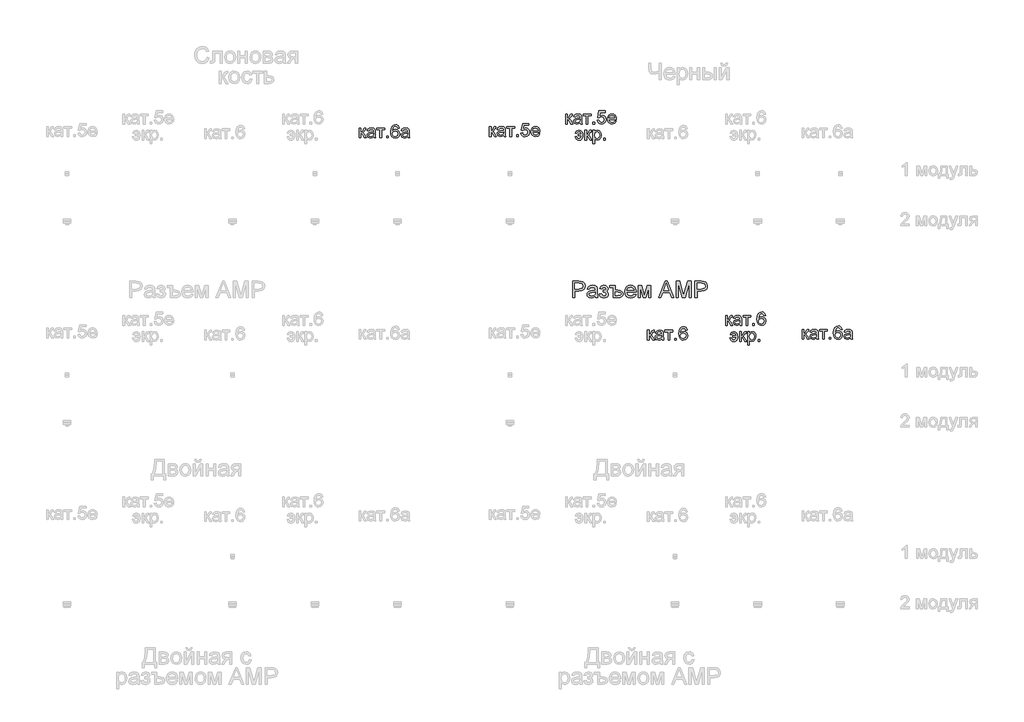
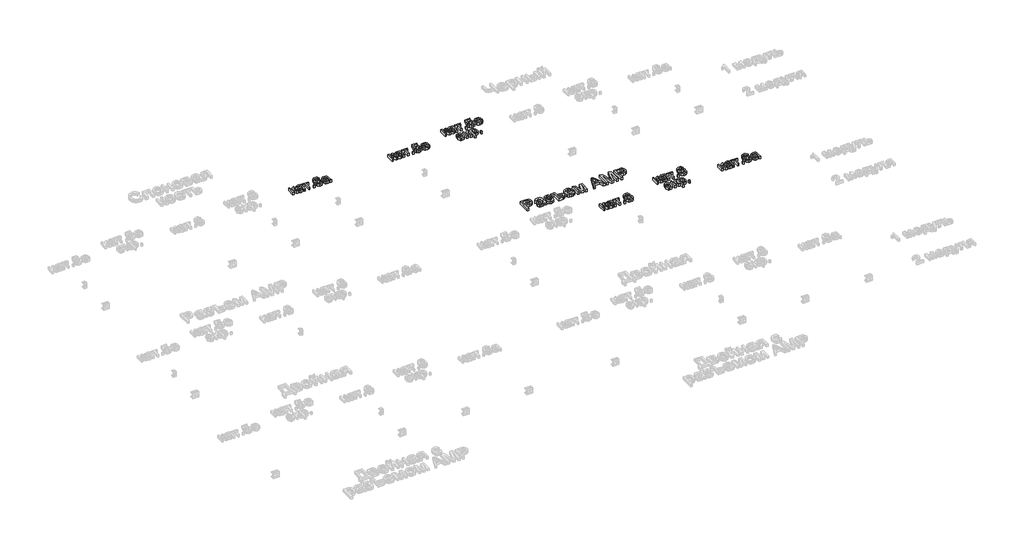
# One storey, part 32 of 47: 7 proxies.
"""IFC4 building model written with IfcOpenShell, lengths in millimetres."""

from ifc_helpers import new_model, si_unit, origin, origin_with_axes, place, context, project, spatial, polyline, outline, extrude, element, save

model = new_model("IFC4")

# Units and contexts
model_context = context("Model", 3, world=origin())
ifc_project = project(units=[si_unit("LENGTHUNIT", "METRE", prefix="MILLI")], contexts=[model_context])

# Site, building, storey
site = spatial("IfcSite", under=ifc_project)
building = spatial("IfcBuilding", under=site)
storey = spatial("IfcBuildingStorey", under=building, Name="Этаж 01", Elevation=0.0)

# Proxies
placement = place(None, origin())
element("IfcBuildingElementProxy", 1, Name="80 мм Arial", ObjectType="80 мм Arial", at=placement, inside=storey, context=model_context, shape_type="SweptSolid", body=[
    extrude(outline(polyline([(4554.3437127, -20043.42412), (4564.3893437, -20043.42412), (4564.3893437, -20068.5381975), (4571.1191317, -20066.7331232), (4576.6324565, -20056.2166032), (4581.2138137, -20047.1421807), (4585.2556105, -20044.1893145), (4592.6034402, -20043.42412), (4594.5262368, -20043.42412), (4594.5262368, -20053.5286121), (4591.8186253, -20053.469751), (4586.913532, -20054.5292512), (4583.4603464, -20061.1413169), (4579.4087393, -20068.2929429), (4573.7286413, -20071.7951795), (4580.0660218, -20075.7045388), (4586.2856801, -20083.9401904), (4597.0376445, -20102.4422022), (4585.6185874, -20102.4422022), (4575.0824471, -20084.3325979), (4569.7849463, -20076.6708422), (4564.3893437, -20074.8167169), (4564.3893437, -20102.4422022), (4554.3437127, -20102.4422022), (4554.3437127, -20043.42412)])), origin_with_axes(), (0.0, 0.0, 1.0), 20.0),
    extrude(outline(polyline([(4640.9872802, -20094.9079789), (4631.245765, -20101.7162484), (4620.4839904, -20103.6979061), (4605.896243, -20098.9301554), (4600.8047562, -20086.7459037), (4602.7275527, -20078.7996526), (4607.7797988, -20073.031263), (4614.8137026, -20069.7350403), (4623.5055278, -20068.2242716), (4640.9284191, -20064.7710859), (4640.9872802, -20062.5343634), (4638.2208076, -20055.1178623), (4627.1156765, -20052.2140471), (4616.9523232, -20054.1466539), (4612.1060911, -20061.0039743), (4602.0604601, -20059.7482704), (4606.4063727, -20049.9380839), (4615.1570591, -20044.1893145), (4628.4106211, -20042.1684161), (4640.5850626, -20043.9538701), (4647.4620034, -20048.4371253), (4650.5424019, -20055.255205), (4651.0329113, -20064.0451321), (4651.0329113, -20076.5433097), (4651.543041, -20093.9956316), (4653.544319, -20102.4422022), (4643.498688, -20102.4422022), (4640.9872802, -20094.9079789)]), holes=[polyline([(4640.9872802, -20074.8167169), (4624.7808521, -20077.8971155), (4616.1380777, -20079.5256065), (4612.2238133, -20082.1743568), (4610.8503872, -20086.0395703), (4613.8424941, -20091.4744137), (4622.622611, -20093.6522751), (4632.7859643, -20091.2487794), (4639.3391689, -20085.4313387), (4640.9284191, -20077.661671), (4640.9872802, -20074.8167169)])]), origin_with_axes(), (0.0, 0.0, 1.0), 20.0),
    extrude(outline(polyline([(4659.8228384, -20043.42412), (4707.5395857, -20043.42412), (4707.5395857, -20053.469751), (4688.7040276, -20053.469751), (4688.7040276, -20102.4422022), (4678.6583965, -20102.4422022), (4678.6583965, -20053.469751), (4659.8228384, -20053.469751), (4659.8228384, -20043.42412)])), origin_with_axes(), (0.0, 0.0, 1.0), 20.0),
    extrude(outline(polyline([(4718.8409206, -20102.4422022), (4718.8409206, -20092.3965712), (4728.8865516, -20092.3965712), (4728.8865516, -20102.4422022), (4718.8409206, -20102.4422022)])), origin_with_axes(), (0.0, 0.0, 1.0), 20.0),
    extrude(outline(polyline([(4796.694561, -20043.42412), (4786.64893, -20044.6798239), (4782.8425776, -20036.3019246), (4772.7773262, -20032.1227851), (4763.7127138, -20034.5557114), (4756.8553934, -20043.688995), (4754.0006292, -20061.5925855), (4762.8592276, -20053.5776631), (4773.8368263, -20050.9583433), (4783.1172628, -20052.7487023), (4790.9065509, -20058.1197794), (4796.1893364, -20066.3260005), (4797.9502648, -20076.6217912), (4794.6344218, -20090.4835848), (4785.5109483, -20100.2937714), (4772.345678, -20103.6979061), (4760.9486938, -20101.4415632), (4751.8718187, -20094.6725345), (4745.9342033, -20082.7237273), (4743.9549981, -20064.9280489), (4746.1524799, -20044.9201734), (4752.7449253, -20031.2398683), (4761.7457714, -20024.3678326), (4773.4051781, -20022.0771541), (4782.2196307, -20023.494726), (4789.2780599, -20027.7474419), (4796.694561, -20043.42412)]), holes=[polyline([(4754.0006292, -20076.4648283), (4756.3256434, -20085.1664637), (4762.5060609, -20091.4842238), (4771.5608631, -20093.6522751), (4783.4017582, -20089.1592096), (4787.9046338, -20076.9553376), (4783.4606193, -20065.2714054), (4771.1488352, -20061.0039743), (4758.9940141, -20065.2714054), (4754.0006292, -20076.4648283)])]), origin_with_axes(), (0.0, 0.0, 1.0), 20.0),
    extrude(outline(polyline([(4846.922716, -20094.9079789), (4837.1812008, -20101.7162484), (4826.4194262, -20103.6979061), (4811.8316788, -20098.9301554), (4806.740192, -20086.7459037), (4808.6629885, -20078.7996526), (4813.7152346, -20073.031263), (4820.7491384, -20069.7350403), (4829.4409636, -20068.2242716), (4846.8638549, -20064.7710859), (4846.922716, -20062.5343634), (4844.1562434, -20055.1178623), (4833.0511123, -20052.2140471), (4822.887759, -20054.1466539), (4818.0415269, -20061.0039743), (4807.9958959, -20059.7482704), (4812.3418085, -20049.9380839), (4821.0924949, -20044.1893145), (4834.3460569, -20042.1684161), (4846.5204984, -20043.9538701), (4853.3974392, -20048.4371253), (4856.4778377, -20055.255205), (4856.9683471, -20064.0451321), (4856.9683471, -20076.5433097), (4857.4784768, -20093.9956316), (4859.4797548, -20102.4422022), (4849.4341238, -20102.4422022), (4846.922716, -20094.9079789)]), holes=[polyline([(4846.922716, -20074.8167169), (4830.7162879, -20077.8971155), (4822.0735135, -20079.5256065), (4818.1592491, -20082.1743568), (4816.785823, -20086.0395703), (4819.7779299, -20091.4744137), (4828.5580468, -20093.6522751), (4838.7214001, -20091.2487794), (4845.2746047, -20085.4313387), (4846.8638549, -20077.661671), (4846.922716, -20074.8167169)])]), origin_with_axes(), (0.0, 0.0, 1.0), 20.0),
])
element("IfcBuildingElementProxy", 2, Name="80 мм Arial", ObjectType="80 мм Arial", at=placement, inside=storey, context=model_context, shape_type="SweptSolid", body=[
    extrude(outline(polyline([(5341.6064135, -20034.963684), (5351.6520445, -20034.963684), (5351.6520445, -20060.0777615), (5358.3818324, -20058.2726872), (5363.8951573, -20047.7561672), (5368.4765144, -20038.6817447), (5372.5183112, -20035.7288785), (5379.866141, -20034.963684), (5381.7889375, -20034.963684), (5381.7889375, -20045.0681761), (5379.081326, -20045.009315), (5374.1762328, -20046.0688151), (5370.7230471, -20052.6808809), (5366.6714401, -20059.8325069), (5360.9913421, -20063.3347434), (5367.3287226, -20067.2441028), (5373.5483808, -20075.4797544), (5384.3003453, -20093.9817662), (5372.8812881, -20093.9817662), (5362.3451478, -20075.8721618), (5357.0476471, -20068.2104062), (5351.6520445, -20066.3562809), (5351.6520445, -20093.9817662), (5341.6064135, -20093.9817662), (5341.6064135, -20034.963684)])), origin_with_axes(), (0.0, 0.0, 1.0), 20.0),
    extrude(outline(polyline([(5428.249981, -20086.4475429), (5418.5084657, -20093.2558124), (5407.7466911, -20095.2374701), (5393.1589437, -20090.4697194), (5388.0674569, -20078.2854677), (5389.9902535, -20070.3392166), (5395.0424995, -20064.570827), (5402.0764033, -20061.2746043), (5410.7682285, -20059.7638355), (5428.1911198, -20056.3106499), (5428.249981, -20054.0739274), (5425.4835084, -20046.6574263), (5414.3783772, -20043.7536111), (5404.2150239, -20045.6862179), (5399.3687918, -20052.5435383), (5389.3231608, -20051.2878344), (5393.6690734, -20041.4776478), (5402.4197598, -20035.7288785), (5415.6733218, -20033.7079801), (5427.8477633, -20035.4934341), (5434.7247041, -20039.9766893), (5437.8051026, -20046.7947689), (5438.295612, -20055.5846961), (5438.295612, -20068.0828737), (5438.8057417, -20085.5351956), (5440.8070197, -20093.9817662), (5430.7613887, -20093.9817662), (5428.249981, -20086.4475429)]), holes=[polyline([(5428.249981, -20066.3562809), (5412.0435528, -20069.4366795), (5403.4007785, -20071.0651704), (5399.486514, -20073.7139208), (5398.1130879, -20077.5791343), (5401.1051948, -20083.0139776), (5409.8853118, -20085.1918391), (5420.048665, -20082.7883434), (5426.6018696, -20076.9709027), (5428.1911198, -20069.201235), (5428.249981, -20066.3562809)])]), origin_with_axes(), (0.0, 0.0, 1.0), 20.0),
    extrude(outline(polyline([(5447.0855391, -20034.963684), (5494.8022864, -20034.963684), (5494.8022864, -20045.009315), (5475.9667283, -20045.009315), (5475.9667283, -20093.9817662), (5465.9210973, -20093.9817662), (5465.9210973, -20045.009315), (5447.0855391, -20045.009315), (5447.0855391, -20034.963684)])), origin_with_axes(), (0.0, 0.0, 1.0), 20.0),
    extrude(outline(polyline([(5506.1036213, -20093.9817662), (5506.1036213, -20083.9361352), (5516.1492523, -20083.9361352), (5516.1492523, -20093.9817662), (5506.1036213, -20093.9817662)])), origin_with_axes(), (0.0, 0.0, 1.0), 20.0),
    extrude(outline(polyline([(5532.4734027, -20072.6348003), (5542.5190338, -20071.3790964), (5547.58109, -20081.7288432), (5558.0779896, -20085.1918391), (5570.6742691, -20080.3750375), (5575.1673346, -20067.5923644), (5570.9587645, -20055.6631776), (5558.2349526, -20051.2878344), (5549.4155949, -20053.0340476), (5543.7747376, -20057.5663538), (5533.7291066, -20056.3106499), (5542.5190338, -20014.872422), (5581.4458539, -20014.872422), (5581.4458539, -20024.918053), (5550.6418682, -20024.918053), (5546.3450065, -20047.0498338), (5561.0406659, -20041.2422034), (5570.4265619, -20043.0423726), (5578.2183026, -20048.4428803), (5583.4642998, -20056.6736268), (5585.2129656, -20066.9645125), (5583.6384306, -20077.0101435), (5578.9148258, -20085.6038669), (5569.8698338, -20092.8290693), (5558.0387489, -20095.2374701), (5548.1721537, -20093.6899131), (5540.3117418, -20089.0472424), (5534.9234968, -20081.849018), (5532.4734027, -20072.6348003)])), origin_with_axes(), (0.0, 0.0, 1.0), 20.0),
    extrude(outline(polyline([(5637.8348062, -20076.4019119), (5647.6842334, -20077.6576158), (5638.4724683, -20090.6266824), (5621.314452, -20095.2374701), (5609.5275129, -20093.2484548), (5600.4579954, -20087.2814088), (5594.6748905, -20077.7238346), (5592.7471888, -20064.9632344), (5594.6945109, -20051.7734386), (5600.5364769, -20041.9092961), (5609.4833671, -20035.7583091), (5620.7454612, -20033.7079801), (5631.6568412, -20035.753404), (5640.3756445, -20041.8896757), (5646.0925307, -20051.7341979), (5647.9981594, -20064.9043733), (5647.9392983, -20067.6119848), (5602.7928198, -20067.6119848), (5608.5710197, -20080.6595329), (5621.5106558, -20085.1918391), (5631.360083, -20083.0924591), (5637.8348062, -20076.4019119)]), holes=[polyline([(5602.7928198, -20057.5663538), (5637.9525284, -20057.5663538), (5633.9303519, -20048.4625007), (5620.7062205, -20043.7536111), (5608.3355752, -20047.5109126), (5602.7928198, -20057.5663538)])]), origin_with_axes(), (0.0, 0.0, 1.0), 20.0),
])
element("IfcBuildingElementProxy", 3, Name="80 мм Arial", ObjectType="80 мм Arial", at=placement, inside=storey, context=model_context, shape_type="SweptSolid", body=[
    extrude(outline(polyline([(5804.2827356, -19958.8197599), (5814.3283666, -19958.8197599), (5814.3283666, -19983.9338374), (5821.0581546, -19982.1287631), (5826.5714794, -19971.6122431), (5831.1528365, -19962.5378206), (5835.1946334, -19959.5849544), (5842.5424631, -19958.8197599), (5844.4652597, -19958.8197599), (5844.4652597, -19968.924252), (5841.7576482, -19968.8653909), (5836.8525549, -19969.924891), (5833.3993693, -19976.5369568), (5829.3477622, -19983.6885828), (5823.6676642, -19987.1908193), (5830.0050447, -19991.1001787), (5836.224703, -19999.3358303), (5846.9766674, -20017.8378421), (5835.5576103, -20017.8378421), (5825.02147, -19999.7282377), (5819.7239692, -19992.0664821), (5814.3283666, -19990.2123568), (5814.3283666, -20017.8378421), (5804.2827356, -20017.8378421), (5804.2827356, -19958.8197599)])), origin_with_axes(), (0.0, 0.0, 1.0), 20.0),
    extrude(outline(polyline([(5890.9263031, -20010.3036188), (5881.1847879, -20017.1118883), (5870.4230133, -20019.093546), (5855.8352659, -20014.3257953), (5850.7437791, -20002.1415436), (5852.6665756, -19994.1952925), (5857.7188217, -19988.4269029), (5864.7527254, -19985.1306802), (5873.4445507, -19983.6199114), (5890.867442, -19980.1667258), (5890.9263031, -19977.9300033), (5888.1598305, -19970.5135022), (5877.0546994, -19967.609687), (5866.8913461, -19969.5422938), (5862.045114, -19976.3996142), (5851.9994829, -19975.1439103), (5856.3453956, -19965.3337237), (5865.096082, -19959.5849544), (5878.349644, -19957.564056), (5890.5240855, -19959.34951), (5897.4010262, -19963.8327652), (5900.4814248, -19970.6508448), (5900.9719341, -19979.440772), (5900.9719341, -19991.9389496), (5901.4820638, -20009.3912715), (5903.4833419, -20017.8378421), (5893.4377109, -20017.8378421), (5890.9263031, -20010.3036188)]), holes=[polyline([(5890.9263031, -19990.2123568), (5874.719875, -19993.2927554), (5866.0771006, -19994.9212463), (5862.1628362, -19997.5699967), (5860.7894101, -20001.4352102), (5863.781517, -20006.8700535), (5872.5616339, -20009.047915), (5882.7249872, -20006.6444193), (5889.2781918, -20000.8269786), (5890.867442, -19993.0573109), (5890.9263031, -19990.2123568)])]), origin_with_axes(), (0.0, 0.0, 1.0), 20.0),
    extrude(outline(polyline([(5909.7618613, -19958.8197599), (5957.4786086, -19958.8197599), (5957.4786086, -19968.8653909), (5938.6430504, -19968.8653909), (5938.6430504, -20017.8378421), (5928.5974194, -20017.8378421), (5928.5974194, -19968.8653909), (5909.7618613, -19968.8653909), (5909.7618613, -19958.8197599)])), origin_with_axes(), (0.0, 0.0, 1.0), 20.0),
    extrude(outline(polyline([(5968.7799435, -20017.8378421), (5968.7799435, -20007.7922111), (5978.8255745, -20007.7922111), (5978.8255745, -20017.8378421), (5968.7799435, -20017.8378421)])), origin_with_axes(), (0.0, 0.0, 1.0), 20.0),
    extrude(outline(polyline([(5995.1497249, -19996.4908762), (6005.1953559, -19995.2351723), (6010.2574122, -20005.5849191), (6020.7543118, -20009.047915), (6033.3505913, -20004.2311134), (6037.8436567, -19991.4484403), (6033.6350867, -19979.5192535), (6020.9112748, -19975.1439103), (6012.0919171, -19976.8901235), (6006.4510598, -19981.4224297), (5996.4054288, -19980.1667258), (6005.1953559, -19938.7284978), (6044.1221761, -19938.7284978), (6044.1221761, -19948.7741289), (6013.3181904, -19948.7741289), (6009.0213287, -19970.9059097), (6023.7169881, -19965.0982793), (6033.1028841, -19966.8984485), (6040.8946247, -19972.2989562), (6046.140622, -19980.5297027), (6047.8892877, -19990.8205884), (6046.3147528, -20000.8662194), (6041.591148, -20009.4599428), (6032.546156, -20016.6851452), (6020.715071, -20019.093546), (6010.8484759, -20017.545989), (6002.9880639, -20012.9033183), (5997.599819, -20005.7050939), (5995.1497249, -19996.4908762)])), origin_with_axes(), (0.0, 0.0, 1.0), 20.0),
    extrude(outline(polyline([(6100.5111283, -20000.2579878), (6110.3605556, -20001.5136917), (6101.1487904, -20014.4827583), (6083.9907742, -20019.093546), (6072.2038351, -20017.1045306), (6063.1343176, -20011.1374847), (6057.3512126, -20001.5799105), (6055.423511, -19988.8193103), (6057.370833, -19975.6295145), (6063.2127991, -19965.7653719), (6072.1596892, -19959.614385), (6083.4217834, -19957.564056), (6094.3331634, -19959.6094799), (6103.0519666, -19965.7457516), (6108.7688528, -19975.5902738), (6110.6744816, -19988.7604492), (6110.6156205, -19991.4680607), (6065.469142, -19991.4680607), (6071.2473419, -20004.5156088), (6084.1869779, -20009.047915), (6094.0364052, -20006.948535), (6100.5111283, -20000.2579878)]), holes=[polyline([(6065.469142, -19981.4224297), (6100.6288506, -19981.4224297), (6096.6066741, -19972.3185766), (6083.3825426, -19967.609687), (6071.0118974, -19971.3669885), (6065.469142, -19981.4224297)])]), origin_with_axes(), (0.0, 0.0, 1.0), 20.0),
    extrude(outline(polyline([(5879.6249682, -20079.0022839), (5898.4605264, -20079.0022839), (5893.91841, -20069.0253242), (5884.3730985, -20065.1895413), (5876.2306437, -20067.700949), (5872.090745, -20075.2351723), (5862.045114, -20073.9794684), (5868.9416751, -20060.4119804), (5883.764867, -20055.1439103), (5894.0189644, -20057.1942393), (5901.8646611, -20063.3452262), (5906.8457833, -20073.0867415), (5908.5061574, -20085.9086553), (5907.1351838, -20098.6717079), (5902.3944112, -20108.7075288), (5894.6468164, -20115.0350991), (5884.2553763, -20116.6734002), (5875.3477269, -20115.2043248), (5868.3236333, -20110.7970985), (5860.7894101, -20095.3264343), (5870.8350411, -20094.0707305), (5875.1613334, -20103.4885095), (5884.0984133, -20106.6277692), (5894.0459424, -20102.2328057), (5898.4605264, -20089.047915), (5879.6249682, -20089.047915), (5879.6249682, -20079.0022839)])), origin_with_axes(), (0.0, 0.0, 1.0), 20.0),
    extrude(outline(polyline([(5919.8074923, -20056.3996142), (5929.8531233, -20056.3996142), (5929.8531233, -20081.5136917), (5936.5829113, -20079.7086174), (5942.0962361, -20069.1920974), (5946.6775932, -20060.1176749), (5950.7193901, -20057.1648087), (5958.0672198, -20056.3996142), (5959.9900164, -20056.3996142), (5959.9900164, -20066.5041063), (5957.2824049, -20066.4452452), (5952.3773116, -20067.5047453), (5948.9241259, -20074.116811), (5944.8725189, -20081.268437), (5939.1924209, -20084.7706736), (5945.5298014, -20088.680033), (5951.7494597, -20096.9156846), (5962.5014241, -20115.4176964), (5951.082367, -20115.4176964), (5940.5462266, -20097.308092), (5935.2487259, -20089.6463363), (5929.8531233, -20087.7922111), (5929.8531233, -20115.4176964), (5919.8074923, -20115.4176964), (5919.8074923, -20056.3996142)])), origin_with_axes(), (0.0, 0.0, 1.0), 20.0),
    extrude(outline(polyline([(5968.7799435, -20138.0203662), (5968.7799435, -20056.3996142), (5978.8255745, -20056.3996142), (5978.8255745, -20066.2490414), (5985.7711866, -20057.9201931), (5995.1497249, -20055.1439103), (6007.883347, -20059.0287441), (6016.2023852, -20069.9769123), (6019.0080986, -20085.4573867), (6015.8394083, -20101.7324861), (6006.6374533, -20112.8179969), (5993.9332618, -20116.6734002), (5985.1923856, -20114.0933212), (5978.8255745, -20107.5695471), (5978.8255745, -20138.0203662), (5968.7799435, -20138.0203662)]), holes=[polyline([(5978.8255745, -20086.3795442), (5983.1714871, -20101.6834352), (5993.7174377, -20106.6277692), (6004.4792123, -20101.5068519), (6008.9624676, -20085.63397), (6004.5871244, -20070.2908383), (5994.1294655, -20065.1895413), (5983.4657927, -20070.6145744), (5978.8255745, -20086.3795442)])]), origin_with_axes(), (0.0, 0.0, 1.0), 20.0),
    extrude(outline(polyline([(6032.8208412, -20115.4176964), (6032.8208412, -20105.3720654), (6042.8664722, -20105.3720654), (6042.8664722, -20115.4176964), (6032.8208412, -20115.4176964)])), origin_with_axes(), (0.0, 0.0, 1.0), 20.0),
])
element("IfcBuildingElementProxy", 4, Name="100 мм Arial", ObjectType="100 мм Arial", at=placement, inside=storey, context=model_context, shape_type="SweptSolid", body=[
    extrude(outline(polyline([(5845.3904734, -21070.9026382), (5845.3904734, -20970.4463281), (5882.6201313, -20970.4463281), (5897.6297168, -20971.4028213), (5909.8311363, -20976.0994481), (5917.7405992, -20985.8115327), (5920.732706, -20999.5090057), (5918.7124208, -21011.3486746), (5912.6515649, -21021.2140434), (5901.3177338, -21027.8727075), (5883.4785227, -21030.0922622), (5857.9475122, -21030.0922622), (5857.9475122, -21070.9026382), (5845.3904734, -21070.9026382)]), holes=[polyline([(5857.9475122, -21017.5352234), (5884.2142867, -21017.5352234), (5902.7064883, -21012.9244358), (5906.8083725, -21007.375549), (5908.1756673, -20999.9504641), (5904.9505685, -20989.5516664), (5896.4770198, -20983.8617582), (5883.9199811, -20983.0033668), (5857.9475122, -20983.0033668), (5857.9475122, -21017.5352234)])]), origin_with_axes(), (0.0, 0.0, 1.0), 20.0),
    extrude(outline(polyline([(5983.5178999, -21061.4848591), (5971.3410059, -21069.995196), (5957.8887876, -21072.4722681), (5947.3949537, -21070.982346), (5939.6541033, -21066.5125797), (5934.8808344, -21059.7251569), (5933.2897448, -21051.2822651), (5935.6932405, -21041.3494513), (5942.0085481, -21034.1389642), (5950.8009278, -21030.0186858), (5961.6657094, -21028.1302249), (5983.4443235, -21023.8137428), (5983.5178999, -21021.0178397), (5980.0598091, -21011.7472134), (5966.1783952, -21008.1174444), (5953.4742036, -21010.5332028), (5947.4164134, -21019.1048533), (5934.8593747, -21017.5352234), (5940.2917655, -21005.2724903), (5951.2301234, -20998.0865286), (5967.797076, -20995.5604056), (5983.0151278, -20997.792223), (5991.6113038, -21003.3962921), (5995.461802, -21011.9188917), (5996.0749387, -21022.9063006), (5996.0749387, -21038.5290226), (5996.7126008, -21060.344425), (5999.2141984, -21070.9026382), (5986.6571596, -21070.9026382), (5983.5178999, -21061.4848591)]), holes=[polyline([(5983.5178999, -21036.3707816), (5963.2598647, -21040.2212798), (5952.4563968, -21042.2568935), (5947.5635662, -21045.5678315), (5945.8467836, -21050.3993484), (5949.5869172, -21057.1929025), (5960.5620634, -21059.9152293), (5973.266255, -21056.9108597), (5981.4577607, -21049.6390589), (5983.4443235, -21039.9269742), (5983.5178999, -21036.3707816)])]), origin_with_axes(), (0.0, 0.0, 1.0), 20.0),
    extrude(outline(polyline([(6030.6067953, -21037.9404114), (6030.6067953, -21025.3833727), (6040.5150837, -21024.8928634), (6045.5182788, -21022.2809012), (6047.8727236, -21016.8239849), (6044.7212012, -21010.4841519), (6036.5910091, -21008.1174444), (6028.1910368, -21010.4718891), (6022.758646, -21017.5352234), (6008.6319774, -21015.9655936), (6018.074282, -21000.6617026), (6035.3156848, -20995.5604056), (6045.8125844, -20997.114707), (6053.7588355, -21001.7776113), (6058.7620306, -21008.5987567), (6060.4297624, -21016.6277812), (6058.0569235, -21024.4268795), (6050.9384069, -21030.4601442), (6059.2402772, -21038.283768), (6061.9993922, -21049.540957), (6060.248887, -21058.7839922), (6054.9973716, -21066.1079095), (6046.600465, -21070.8811784), (6035.4137867, -21072.4722681), (6024.472363, -21071.0007401), (6016.0999819, -21066.5861561), (6010.2966435, -21059.2285162), (6007.0623476, -21048.9278204), (6021.1890162, -21047.3581905), (6026.8543989, -21056.6288168), (6036.6155345, -21059.9152293), (6045.7880589, -21056.7637069), (6049.4423534, -21048.7070912), (6047.1737478, -21042.1097407), (6042.3422309, -21038.5780736), (6033.0593419, -21037.8668351), (6030.6067953, -21037.9404114)])), origin_with_axes(), (0.0, 0.0, 1.0), 20.0),
    extrude(outline(polyline([(6071.4171713, -20997.1300355), (6104.379398, -20997.1300355), (6104.379398, -21025.3833727), (6119.9530692, -21025.3833727), (6134.2391533, -21027.044973), (6143.9880262, -21032.0297741), (6149.5982266, -21039.4242022), (6151.4682934, -21048.3146837), (6149.6472775, -21057.3921719), (6144.1842299, -21064.6118561), (6135.1649897, -21069.3299427), (6122.6753959, -21070.9026382), (6091.8223593, -21070.9026382), (6091.8223593, -21009.6870742), (6071.4171713, -21009.6870742), (6071.4171713, -20997.1300355)]), holes=[polyline([(6104.379398, -21058.3455994), (6117.3043188, -21058.3455994), (6133.9938987, -21055.929841), (6138.9112547, -21048.1675309), (6134.7051372, -21040.6136873), (6118.9475251, -21037.9404114), (6104.379398, -21037.9404114), (6104.379398, -21058.3455994)])]), origin_with_axes(), (0.0, 0.0, 1.0), 20.0),
    extrude(outline(polyline([(6217.2455942, -21048.9278204), (6229.5573783, -21050.4974502), (6225.1213345, -21059.7742079), (6218.0426718, -21066.7087835), (6208.4808056, -21071.0313969), (6196.5951515, -21072.4722681), (6181.8614776, -21069.9859989), (6170.5245808, -21062.5271915), (6163.2956996, -21050.5802237), (6160.8860725, -21034.6294735), (6163.320225, -21018.1422287), (6170.6226826, -21005.8120505), (6181.8062953, -20998.1233168), (6195.883913, -20995.5604056), (6209.5231379, -20998.1171855), (6220.4216421, -21005.7875251), (6227.5677498, -21018.0931778), (6229.9497857, -21034.5558971), (6229.8762093, -21037.9404114), (6173.4431113, -21037.9404114), (6175.6166807, -21047.3397964), (6180.6658611, -21054.2498466), (6187.9529903, -21058.4988836), (6196.8404062, -21059.9152293), (6209.1521903, -21057.2910044), (6217.2455942, -21048.9278204)]), holes=[polyline([(6173.4431113, -21025.3833727), (6217.392747, -21025.3833727), (6212.3650264, -21014.0035563), (6205.0441747, -21009.5889724), (6195.834862, -21008.1174444), (6180.3715555, -21012.8140712), (6175.5063161, -21018.30471), (6173.4431113, -21025.3833727)])]), origin_with_axes(), (0.0, 0.0, 1.0), 20.0),
    extrude(outline(polyline([(6242.5068245, -20997.1300355), (6264.1137603, -20997.1300355), (6280.766552, -21056.1873584), (6298.7191934, -20997.1300355), (6319.418687, -20997.1300355), (6319.418687, -21070.9026382), (6306.8616482, -21070.9026382), (6306.8616482, -21011.5019587), (6288.810905, -21070.9026382), (6272.3297916, -21070.9026382), (6255.0638633, -21008.6570046), (6255.0638633, -21070.9026382), (6242.5068245, -21070.9026382), (6242.5068245, -20997.1300355)])), origin_with_axes(), (0.0, 0.0, 1.0), 20.0),
    extrude(outline(polyline([(6367.3659737, -21070.9026382), (6407.4651111, -20970.4463281), (6418.1582145, -20970.4463281), (6458.2573519, -21070.9026382), (6444.9890746, -21070.9026382), (6433.4866309, -21039.5100413), (6392.1121692, -21039.5100413), (6380.634251, -21070.9026382), (6367.3659737, -21070.9026382)]), holes=[polyline([(6396.7229569, -21026.9530025), (6428.9003687, -21026.9530025), (6419.8504716, -21002.2558579), (6412.8116628, -20983.0033668), (6406.5576689, -21000.0976169), (6396.7229569, -21026.9530025)])]), origin_with_axes(), (0.0, 0.0, 1.0), 20.0),
    extrude(outline(polyline([(6471.672782, -21070.9026382), (6471.672782, -20970.4463281), (6493.2797179, -20970.4463281), (6513.8320587, -21041.2513494), (6517.9768625, -21056.0402056), (6522.4650228, -21040.0250761), (6542.6740071, -20970.4463281), (6564.2809429, -20970.4463281), (6564.2809429, -21070.9026382), (6551.7239042, -21070.9026382), (6551.7239042, -20983.0033668), (6526.4871993, -21070.9026382), (6509.4665257, -21070.9026382), (6484.2298208, -20983.0033668), (6484.2298208, -21070.9026382), (6471.672782, -21070.9026382)])), origin_with_axes(), (0.0, 0.0, 1.0), 20.0),
    extrude(outline(polyline([(6586.2557608, -21070.9026382), (6586.2557608, -20970.4463281), (6623.4854187, -20970.4463281), (6638.4950041, -20971.4028213), (6650.6964236, -20976.0994481), (6658.6058865, -20985.8115327), (6661.5979934, -20999.5090057), (6659.5777081, -21011.3486746), (6653.5168522, -21021.2140434), (6642.1830211, -21027.8727075), (6624.34381, -21030.0922622), (6598.8127996, -21030.0922622), (6598.8127996, -21070.9026382), (6586.2557608, -21070.9026382)]), holes=[polyline([(6598.8127996, -21017.5352234), (6625.079574, -21017.5352234), (6643.5717756, -21012.9244358), (6647.6736599, -21007.375549), (6649.0409546, -20999.9504641), (6645.8158558, -20989.5516664), (6637.3423072, -20983.8617582), (6624.7852684, -20983.0033668), (6598.8127996, -20983.0033668), (6598.8127996, -21017.5352234)])]), origin_with_axes(), (0.0, 0.0, 1.0), 20.0),
])
element("IfcBuildingElementProxy", 5, Name="80 мм Arial", ObjectType="80 мм Arial", at=placement, inside=storey, context=model_context, shape_type="SweptSolid", body=[
    extrude(outline(polyline([(6298.8748928, -21267.654338), (6308.9205238, -21267.654338), (6308.9205238, -21292.7684155), (6315.6503118, -21290.9633412), (6321.1636366, -21280.4468212), (6325.7449937, -21271.3723987), (6329.7867906, -21268.4195325), (6337.1346203, -21267.654338), (6339.0574169, -21267.654338), (6339.0574169, -21277.7588301), (6336.3498054, -21277.699969), (6331.4447121, -21278.7594692), (6327.9915264, -21285.3715349), (6323.9399194, -21292.5231609), (6318.2598214, -21296.0253975), (6324.5972019, -21299.9347568), (6330.8168602, -21308.1704084), (6341.5688246, -21326.6724202), (6330.1497675, -21326.6724202), (6319.6136271, -21308.5628159), (6314.3161264, -21300.9010602), (6308.9205238, -21299.0469349), (6308.9205238, -21326.6724202), (6298.8748928, -21326.6724202), (6298.8748928, -21267.654338)])), origin_with_axes(), (0.0, 0.0, 1.0), 20.0),
    extrude(outline(polyline([(6385.5184603, -21319.1381969), (6375.7769451, -21325.9464664), (6365.0151704, -21327.9281241), (6350.4274231, -21323.1603734), (6345.3359362, -21310.9761218), (6347.2587328, -21303.0298707), (6352.3109789, -21297.261481), (6359.3448826, -21293.9652583), (6368.0367079, -21292.4544896), (6385.4595992, -21289.0013039), (6385.5184603, -21286.7645814), (6382.7519877, -21279.3480804), (6371.6468565, -21276.4442651), (6361.4835033, -21278.3768719), (6356.6372711, -21285.2341923), (6346.5916401, -21283.9784884), (6350.9375528, -21274.1683019), (6359.6882391, -21268.4195325), (6372.9418012, -21266.3986341), (6385.1162427, -21268.1840881), (6391.9931834, -21272.6673433), (6395.073582, -21279.485423), (6395.5640913, -21288.2753501), (6395.5640913, -21300.7735278), (6396.074221, -21318.2258496), (6398.0754991, -21326.6724202), (6388.0298681, -21326.6724202), (6385.5184603, -21319.1381969)]), holes=[polyline([(6385.5184603, -21299.0469349), (6369.3120321, -21302.1273335), (6360.6692578, -21303.7558245), (6356.7549934, -21306.4045748), (6355.3815673, -21310.2697883), (6358.3736742, -21315.7046317), (6367.1537911, -21317.8824931), (6377.3171444, -21315.4789974), (6383.870349, -21309.6615568), (6385.4595992, -21301.891889), (6385.5184603, -21299.0469349)])]), origin_with_axes(), (0.0, 0.0, 1.0), 20.0),
    extrude(outline(polyline([(6404.3540185, -21267.654338), (6452.0707658, -21267.654338), (6452.0707658, -21277.699969), (6433.2352076, -21277.699969), (6433.2352076, -21326.6724202), (6423.1895766, -21326.6724202), (6423.1895766, -21277.699969), (6404.3540185, -21277.699969), (6404.3540185, -21267.654338)])), origin_with_axes(), (0.0, 0.0, 1.0), 20.0),
    extrude(outline(polyline([(6463.3721007, -21326.6724202), (6463.3721007, -21316.6267892), (6473.4177317, -21316.6267892), (6473.4177317, -21326.6724202), (6463.3721007, -21326.6724202)])), origin_with_axes(), (0.0, 0.0, 1.0), 20.0),
    extrude(outline(polyline([(6541.225741, -21267.654338), (6531.18011, -21268.9100419), (6527.3737576, -21260.5321426), (6517.3085063, -21256.3530031), (6508.2438939, -21258.7859294), (6501.3865735, -21267.919213), (6498.5318092, -21285.8228035), (6507.3904077, -21277.8078811), (6518.3680064, -21275.1885613), (6527.6484429, -21276.9789203), (6535.437731, -21282.3499974), (6540.7205164, -21290.5562185), (6542.4814449, -21300.8520092), (6539.1656019, -21314.7138028), (6530.0421284, -21324.5239894), (6516.876858, -21327.9281241), (6505.4798738, -21325.6717812), (6496.4029987, -21318.9027525), (6490.4653833, -21306.9539453), (6488.4861782, -21289.1582669), (6490.68366, -21269.1503914), (6497.2761053, -21255.4700863), (6506.2769515, -21248.5980506), (6517.9363582, -21246.3073721), (6526.7508108, -21247.724944), (6533.80924, -21251.9776599), (6541.225741, -21267.654338)]), holes=[polyline([(6498.5318092, -21300.6950463), (6500.8568234, -21309.3966817), (6507.0372409, -21315.7144418), (6516.0920431, -21317.8824931), (6527.9329383, -21313.3894276), (6532.4358139, -21301.1855556), (6527.9917994, -21289.5016234), (6515.6800153, -21285.2341923), (6503.5251942, -21289.5016234), (6498.5318092, -21300.6950463)])]), origin_with_axes(), (0.0, 0.0, 1.0), 20.0),
])
element("IfcBuildingElementProxy", 6, Name="80 мм Arial", ObjectType="80 мм Arial", at=placement, inside=storey, context=model_context, shape_type="SweptSolid", body=[
    extrude(outline(polyline([(6771.9396889, -21178.8197599), (6781.9853199, -21178.8197599), (6781.9853199, -21203.9338374), (6788.7151079, -21202.1287631), (6794.2284327, -21191.6122431), (6798.8097899, -21182.5378206), (6802.8515867, -21179.5849544), (6810.1994164, -21178.8197599), (6812.122213, -21178.8197599), (6812.122213, -21188.924252), (6809.4146015, -21188.8653909), (6804.5095082, -21189.924891), (6801.0563226, -21196.5369568), (6797.0047155, -21203.6885828), (6791.3246175, -21207.1908193), (6797.661998, -21211.1001787), (6803.8816563, -21219.3358303), (6814.6336207, -21237.8378421), (6803.2145636, -21237.8378421), (6792.6784233, -21219.7282377), (6787.3809225, -21212.0664821), (6781.9853199, -21210.2123568), (6781.9853199, -21237.8378421), (6771.9396889, -21237.8378421), (6771.9396889, -21178.8197599)])), origin_with_axes(), (0.0, 0.0, 1.0), 20.0),
    extrude(outline(polyline([(6858.5832564, -21230.3036188), (6848.8417412, -21237.1118883), (6838.0799666, -21239.093546), (6823.4922192, -21234.3257953), (6818.4007324, -21222.1415436), (6820.3235289, -21214.1952925), (6825.375775, -21208.4269029), (6832.4096787, -21205.1306802), (6841.101504, -21203.6199114), (6858.5243953, -21200.1667258), (6858.5832564, -21197.9300033), (6855.8167838, -21190.5135022), (6844.7116527, -21187.609687), (6834.5482994, -21189.5422938), (6829.7020673, -21196.3996142), (6819.6564362, -21195.1439103), (6824.0023489, -21185.3337237), (6832.7530353, -21179.5849544), (6846.0065973, -21177.564056), (6858.1810388, -21179.34951), (6865.0579795, -21183.8327652), (6868.1383781, -21190.6508448), (6868.6288874, -21199.440772), (6868.6288874, -21211.9389496), (6869.1390171, -21229.3912715), (6871.1402952, -21237.8378421), (6861.0946642, -21237.8378421), (6858.5832564, -21230.3036188)]), holes=[polyline([(6858.5832564, -21210.2123568), (6842.3768283, -21213.2927554), (6833.7340539, -21214.9212463), (6829.8197895, -21217.5699967), (6828.4463634, -21221.4352102), (6831.4384703, -21226.8700535), (6840.2185872, -21229.047915), (6850.3819405, -21226.6444193), (6856.9351451, -21220.8269786), (6858.5243953, -21213.0573109), (6858.5832564, -21210.2123568)])]), origin_with_axes(), (0.0, 0.0, 1.0), 20.0),
    extrude(outline(polyline([(6877.4188146, -21178.8197599), (6925.1355619, -21178.8197599), (6925.1355619, -21188.8653909), (6906.3000037, -21188.8653909), (6906.3000037, -21237.8378421), (6896.2543727, -21237.8378421), (6896.2543727, -21188.8653909), (6877.4188146, -21188.8653909), (6877.4188146, -21178.8197599)])), origin_with_axes(), (0.0, 0.0, 1.0), 20.0),
    extrude(outline(polyline([(6936.4368968, -21237.8378421), (6936.4368968, -21227.7922111), (6946.4825278, -21227.7922111), (6946.4825278, -21237.8378421), (6936.4368968, -21237.8378421)])), origin_with_axes(), (0.0, 0.0, 1.0), 20.0),
    extrude(outline(polyline([(7014.2905372, -21178.8197599), (7004.2449061, -21180.0754638), (7000.4385538, -21171.6975645), (6990.3733024, -21167.518425), (6981.30869, -21169.9513512), (6974.4513696, -21179.0846349), (6971.5966053, -21196.9882253), (6980.4552038, -21188.9733029), (6991.4328025, -21186.3539831), (7000.713239, -21188.1443422), (7008.5025271, -21193.5154193), (7013.7853126, -21201.7216404), (7015.546241, -21212.0174311), (7012.230398, -21225.8792247), (7003.1069245, -21235.6894112), (6989.9416542, -21239.093546), (6978.54467, -21236.8372031), (6969.4677949, -21230.0681744), (6963.5301795, -21218.1193672), (6961.5509743, -21200.3236888), (6963.7484561, -21180.3158133), (6970.3409015, -21166.6355082), (6979.3417476, -21159.7634725), (6991.0011543, -21157.472794), (6999.8156069, -21158.8903659), (7006.8740361, -21163.1430818), (7014.2905372, -21178.8197599)]), holes=[polyline([(6971.5966053, -21211.8604681), (6973.9216196, -21220.5621036), (6980.1020371, -21226.8798637), (6989.1568392, -21229.047915), (7000.9977344, -21224.5548495), (7005.50061, -21212.3509775), (7001.0565955, -21200.6670453), (6988.7448114, -21196.3996142), (6976.5899903, -21200.6670453), (6971.5966053, -21211.8604681)])]), origin_with_axes(), (0.0, 0.0, 1.0), 20.0),
    extrude(outline(polyline([(6816.5171766, -21299.0022839), (6835.3527347, -21299.0022839), (6830.8106183, -21289.0253242), (6821.2653068, -21285.1895413), (6813.122852, -21287.700949), (6808.9829533, -21295.2351723), (6798.9373223, -21293.9794684), (6805.8338834, -21280.4119804), (6820.6570753, -21275.1439103), (6830.9111727, -21277.1942393), (6838.7568694, -21283.3452262), (6843.7379916, -21293.0867415), (6845.3983657, -21305.9086553), (6844.0273922, -21318.6717079), (6839.2866195, -21328.7075288), (6831.5390247, -21335.0350991), (6821.1475846, -21336.6734002), (6812.2399352, -21335.2043248), (6805.2158417, -21330.7970985), (6797.6816184, -21315.3264343), (6807.7272494, -21314.0707305), (6812.0535417, -21323.4885095), (6820.9906216, -21326.6277692), (6830.9381508, -21322.2328057), (6835.3527347, -21309.047915), (6816.5171766, -21309.047915), (6816.5171766, -21299.0022839)])), origin_with_axes(), (0.0, 0.0, 1.0), 20.0),
    extrude(outline(polyline([(6856.6997006, -21276.3996142), (6866.7453316, -21276.3996142), (6866.7453316, -21301.5136917), (6873.4751196, -21299.7086174), (6878.9884444, -21289.1920974), (6883.5698015, -21280.1176749), (6887.6115984, -21277.1648087), (6894.9594281, -21276.3996142), (6896.8822247, -21276.3996142), (6896.8822247, -21286.5041063), (6894.1746132, -21286.4452452), (6889.2695199, -21287.5047453), (6885.8163343, -21294.116811), (6881.7647272, -21301.268437), (6876.0846292, -21304.7706736), (6882.4220097, -21308.680033), (6888.641668, -21316.9156846), (6899.3936324, -21335.4176964), (6887.9745753, -21335.4176964), (6877.438435, -21317.308092), (6872.1409342, -21309.6463363), (6866.7453316, -21307.7922111), (6866.7453316, -21335.4176964), (6856.6997006, -21335.4176964), (6856.6997006, -21276.3996142)])), origin_with_axes(), (0.0, 0.0, 1.0), 20.0),
    extrude(outline(polyline([(6905.6721518, -21358.0203662), (6905.6721518, -21276.3996142), (6915.7177828, -21276.3996142), (6915.7177828, -21286.2490414), (6922.6633949, -21277.9201931), (6932.0419332, -21275.1439103), (6944.7755553, -21279.0287441), (6953.0945935, -21289.9769123), (6955.9003069, -21305.4573867), (6952.7316166, -21321.7324861), (6943.5296617, -21332.8179969), (6930.8254701, -21336.6734002), (6922.0845939, -21334.0933212), (6915.7177828, -21327.5695471), (6915.7177828, -21358.0203662), (6905.6721518, -21358.0203662)]), holes=[polyline([(6915.7177828, -21306.3795442), (6920.0636955, -21321.6834352), (6930.609646, -21326.6277692), (6941.3714206, -21321.5068519), (6945.8546759, -21305.63397), (6941.4793327, -21290.2908383), (6931.0216738, -21285.1895413), (6920.3580011, -21290.6145744), (6915.7177828, -21306.3795442)])]), origin_with_axes(), (0.0, 0.0, 1.0), 20.0),
    extrude(outline(polyline([(6969.7130495, -21335.4176964), (6969.7130495, -21325.3720654), (6979.7586805, -21325.3720654), (6979.7586805, -21335.4176964), (6969.7130495, -21335.4176964)])), origin_with_axes(), (0.0, 0.0, 1.0), 20.0),
])
element("IfcBuildingElementProxy", 7, Name="80 мм Arial", ObjectType="80 мм Arial", at=placement, inside=storey, context=model_context, shape_type="SweptSolid", body=[
    extrude(outline(polyline([(7235.3437127, -21263.42412), (7245.3893437, -21263.42412), (7245.3893437, -21288.5381975), (7252.1191317, -21286.7331232), (7257.6324565, -21276.2166032), (7262.2138137, -21267.1421807), (7266.2556105, -21264.1893145), (7273.6034402, -21263.42412), (7275.5262368, -21263.42412), (7275.5262368, -21273.5286121), (7272.8186253, -21273.469751), (7267.913532, -21274.5292512), (7264.4603464, -21281.1413169), (7260.4087393, -21288.2929429), (7254.7286413, -21291.7951795), (7261.0660218, -21295.7045388), (7267.2856801, -21303.9401904), (7278.0376445, -21322.4422022), (7266.6185874, -21322.4422022), (7256.0824471, -21304.3325979), (7250.7849463, -21296.6708422), (7245.3893437, -21294.8167169), (7245.3893437, -21322.4422022), (7235.3437127, -21322.4422022), (7235.3437127, -21263.42412)])), origin_with_axes(), (0.0, 0.0, 1.0), 20.0),
    extrude(outline(polyline([(7321.9872802, -21314.9079789), (7312.245765, -21321.7162484), (7301.4839904, -21323.6979061), (7286.896243, -21318.9301554), (7281.8047562, -21306.7459037), (7283.7275527, -21298.7996526), (7288.7797988, -21293.031263), (7295.8137026, -21289.7350403), (7304.5055278, -21288.2242716), (7321.9284191, -21284.7710859), (7321.9872802, -21282.5343634), (7319.2208076, -21275.1178623), (7308.1156765, -21272.2140471), (7297.9523232, -21274.1466539), (7293.1060911, -21281.0039743), (7283.0604601, -21279.7482704), (7287.4063727, -21269.9380839), (7296.1570591, -21264.1893145), (7309.4106211, -21262.1684161), (7321.5850626, -21263.9538701), (7328.4620034, -21268.4371253), (7331.5424019, -21275.255205), (7332.0329113, -21284.0451321), (7332.0329113, -21296.5433097), (7332.543041, -21313.9956316), (7334.544319, -21322.4422022), (7324.498688, -21322.4422022), (7321.9872802, -21314.9079789)]), holes=[polyline([(7321.9872802, -21294.8167169), (7305.7808521, -21297.8971155), (7297.1380777, -21299.5256065), (7293.2238133, -21302.1743568), (7291.8503872, -21306.0395703), (7294.8424941, -21311.4744137), (7303.622611, -21313.6522751), (7313.7859643, -21311.2487794), (7320.3391689, -21305.4313387), (7321.9284191, -21297.661671), (7321.9872802, -21294.8167169)])]), origin_with_axes(), (0.0, 0.0, 1.0), 20.0),
    extrude(outline(polyline([(7340.8228384, -21263.42412), (7388.5395857, -21263.42412), (7388.5395857, -21273.469751), (7369.7040276, -21273.469751), (7369.7040276, -21322.4422022), (7359.6583965, -21322.4422022), (7359.6583965, -21273.469751), (7340.8228384, -21273.469751), (7340.8228384, -21263.42412)])), origin_with_axes(), (0.0, 0.0, 1.0), 20.0),
    extrude(outline(polyline([(7399.8409206, -21322.4422022), (7399.8409206, -21312.3965712), (7409.8865516, -21312.3965712), (7409.8865516, -21322.4422022), (7399.8409206, -21322.4422022)])), origin_with_axes(), (0.0, 0.0, 1.0), 20.0),
    extrude(outline(polyline([(7477.694561, -21263.42412), (7467.64893, -21264.6798239), (7463.8425776, -21256.3019246), (7453.7773262, -21252.1227851), (7444.7127138, -21254.5557114), (7437.8553934, -21263.688995), (7435.0006292, -21281.5925855), (7443.8592276, -21273.5776631), (7454.8368263, -21270.9583433), (7464.1172628, -21272.7487023), (7471.9065509, -21278.1197794), (7477.1893364, -21286.3260005), (7478.9502648, -21296.6217912), (7475.6344218, -21310.4835848), (7466.5109483, -21320.2937714), (7453.345678, -21323.6979061), (7441.9486938, -21321.4415632), (7432.8718187, -21314.6725345), (7426.9342033, -21302.7237273), (7424.9549981, -21284.9280489), (7427.1524799, -21264.9201734), (7433.7449253, -21251.2398683), (7442.7457714, -21244.3678326), (7454.4051781, -21242.0771541), (7463.2196307, -21243.494726), (7470.2780599, -21247.7474419), (7477.694561, -21263.42412)]), holes=[polyline([(7435.0006292, -21296.4648283), (7437.3256434, -21305.1664637), (7443.5060609, -21311.4842238), (7452.5608631, -21313.6522751), (7464.4017582, -21309.1592096), (7468.9046338, -21296.9553376), (7464.4606193, -21285.2714054), (7452.1488352, -21281.0039743), (7439.9940141, -21285.2714054), (7435.0006292, -21296.4648283)])]), origin_with_axes(), (0.0, 0.0, 1.0), 20.0),
    extrude(outline(polyline([(7527.922716, -21314.9079789), (7518.1812008, -21321.7162484), (7507.4194262, -21323.6979061), (7492.8316788, -21318.9301554), (7487.740192, -21306.7459037), (7489.6629885, -21298.7996526), (7494.7152346, -21293.031263), (7501.7491384, -21289.7350403), (7510.4409636, -21288.2242716), (7527.8638549, -21284.7710859), (7527.922716, -21282.5343634), (7525.1562434, -21275.1178623), (7514.0511123, -21272.2140471), (7503.887759, -21274.1466539), (7499.0415269, -21281.0039743), (7488.9958959, -21279.7482704), (7493.3418085, -21269.9380839), (7502.0924949, -21264.1893145), (7515.3460569, -21262.1684161), (7527.5204984, -21263.9538701), (7534.3974392, -21268.4371253), (7537.4778377, -21275.255205), (7537.9683471, -21284.0451321), (7537.9683471, -21296.5433097), (7538.4784768, -21313.9956316), (7540.4797548, -21322.4422022), (7530.4341238, -21322.4422022), (7527.922716, -21314.9079789)]), holes=[polyline([(7527.922716, -21294.8167169), (7511.7162879, -21297.8971155), (7503.0735135, -21299.5256065), (7499.1592491, -21302.1743568), (7497.785823, -21306.0395703), (7500.7779299, -21311.4744137), (7509.5580468, -21313.6522751), (7519.7214001, -21311.2487794), (7526.2746047, -21305.4313387), (7527.8638549, -21297.661671), (7527.922716, -21294.8167169)])]), origin_with_axes(), (0.0, 0.0, 1.0), 20.0),
])

save(model, "model.ifc")
